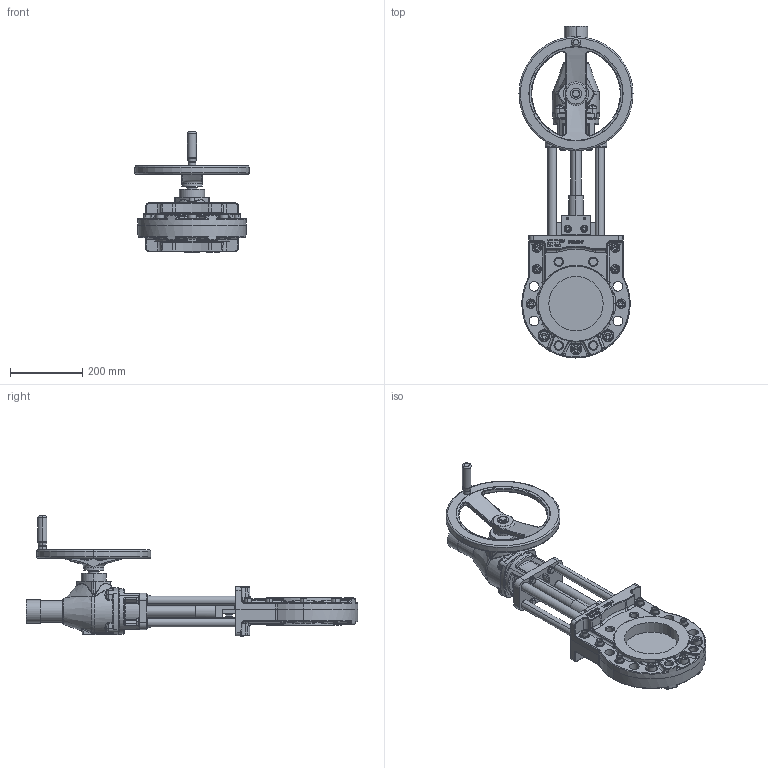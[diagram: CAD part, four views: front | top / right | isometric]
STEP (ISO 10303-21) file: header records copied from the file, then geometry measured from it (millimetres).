
FILE_DESCRIPTION (( 'STEP AP214' ), '1' );
FILE_NAME ('MHA DN 150 GK10.2.STEP', '2015-04-28T08:46:35', ( 'admin' ), ( 'Hewlett-Packard Company' ), 'SwSTEP 2.0', 'SolidWorks 2013', '' );
FILE_SCHEMA (( 'AUTOMOTIVE_DESIGN' ));
Length unit declared in the file: millimetre
Products named in the file (1): MHA DN 150 GK10.2
Bounding box: 315 x 916.5 x 332.25 mm (x, y, z)
Volume: 8890571.5 mm3; surface area: 939366.4 mm2
Topology: 43 solids, 56 shells, 2353 faces, 5573 edges, 3279 vertices
Faces by surface type: plane 749, cylinder 615, bspline 386, cone 356, torus 237, sphere 10
Entity records: 111132 total; most frequent: CARTESIAN_POINT 33170, ORIENTED_EDGE 10794, DIRECTION 10729, EDGE_CURVE 5397, AXIS2_PLACEMENT_3D 4284, VERTEX_POINT 3279, EDGE_LOOP 2560, UNCERTAINTY_MEASURE_WITH_UNIT 2396
